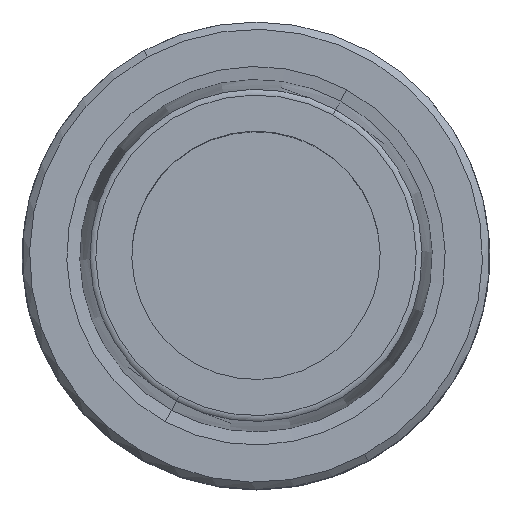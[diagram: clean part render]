
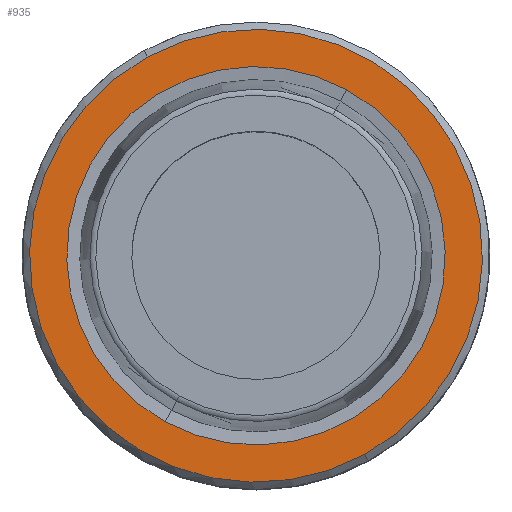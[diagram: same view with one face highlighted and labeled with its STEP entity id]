
A CAD part, top view. The second image highlights one B-rep face of the part: STEP entity #935.
In plain terms, the highlighted planar face has unit normal (0, 0, 1).
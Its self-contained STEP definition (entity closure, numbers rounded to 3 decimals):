
#834=AXIS2_PLACEMENT_3D('Circle Axis2P3D',#832,#833,$) ;
#854=AXIS2_PLACEMENT_3D('Circle Axis2P3D',#852,#853,$) ;
#911=AXIS2_PLACEMENT_3D('Plane Axis2P3D',#908,#909,#910) ;
#919=AXIS2_PLACEMENT_3D('Circle Axis2P3D',#917,#918,$) ;
#928=AXIS2_PLACEMENT_3D('Circle Axis2P3D',#926,#927,$) ;
#829=CARTESIAN_POINT('Vertex',(-7.431,13.603,0.)) ;
#832=CARTESIAN_POINT('Axis2P3D Location',(0.,0.,0.)) ;
#836=CARTESIAN_POINT('Vertex',(7.431,-13.603,0.)) ;
#852=CARTESIAN_POINT('Axis2P3D Location',(0.,0.,0.)) ;
#908=CARTESIAN_POINT('Axis2P3D Location',(0.,-12.16,0.)) ;
#917=CARTESIAN_POINT('Axis2P3D Location',(0.,0.,0.)) ;
#921=CARTESIAN_POINT('Vertex',(6.209,11.365,0.)) ;
#923=CARTESIAN_POINT('Vertex',(-6.209,-11.365,0.)) ;
#926=CARTESIAN_POINT('Axis2P3D Location',(0.,0.,0.)) ;
#833=DIRECTION('Axis2P3D Direction',(0.,0.,-1.)) ;
#853=DIRECTION('Axis2P3D Direction',(0.,0.,-1.)) ;
#909=DIRECTION('Axis2P3D Direction',(0.,0.,-1.)) ;
#910=DIRECTION('Axis2P3D XDirection',(-1.,0.,0.)) ;
#918=DIRECTION('Axis2P3D Direction',(0.,0.,-1.)) ;
#927=DIRECTION('Axis2P3D Direction',(0.,0.,-1.)) ;
#914=ORIENTED_EDGE('',*,*,#856,.F.) ;
#915=ORIENTED_EDGE('',*,*,#838,.F.) ;
#932=ORIENTED_EDGE('',*,*,#925,.T.) ;
#933=ORIENTED_EDGE('',*,*,#930,.T.) ;
#934=FACE_BOUND('',#931,.T.) ;
#935=ADVANCED_FACE('NOCUT',(#916,#934),#912,.F.) ;
#835=CIRCLE('generated circle',#834,15.5) ;
#855=CIRCLE('generated circle',#854,15.5) ;
#920=CIRCLE('generated circle',#919,12.95) ;
#929=CIRCLE('generated circle',#928,12.95) ;
#838=EDGE_CURVE('',#830,#837,#835,.T.) ;
#856=EDGE_CURVE('',#837,#830,#855,.T.) ;
#925=EDGE_CURVE('',#922,#924,#920,.T.) ;
#930=EDGE_CURVE('',#924,#922,#929,.T.) ;
#913=EDGE_LOOP('',(#914,#915)) ;
#931=EDGE_LOOP('',(#932,#933)) ;
#916=FACE_OUTER_BOUND('',#913,.T.) ;
#912=PLANE('',#911) ;
#830=VERTEX_POINT('',#829) ;
#837=VERTEX_POINT('',#836) ;
#922=VERTEX_POINT('',#921) ;
#924=VERTEX_POINT('',#923) ;
